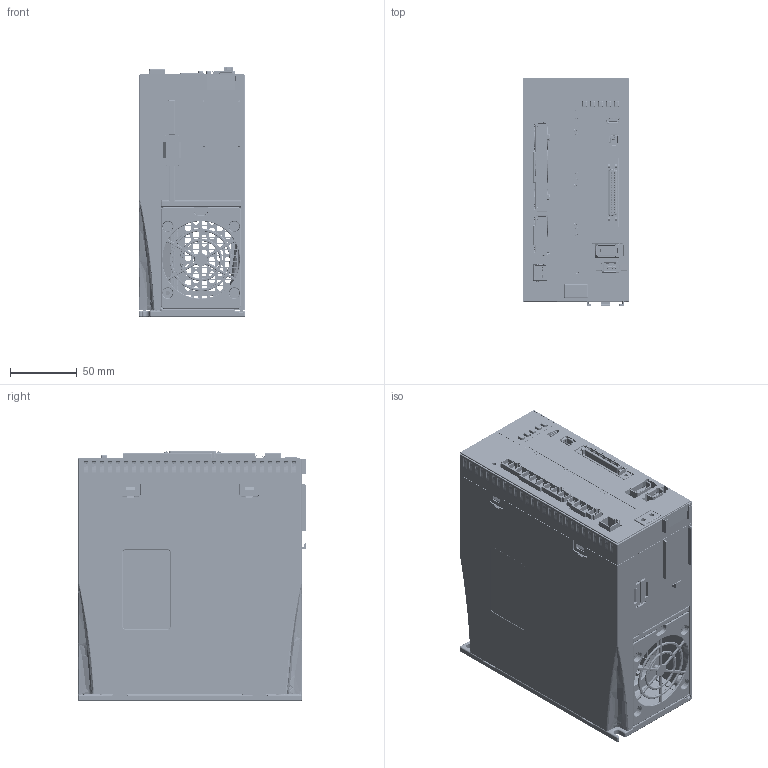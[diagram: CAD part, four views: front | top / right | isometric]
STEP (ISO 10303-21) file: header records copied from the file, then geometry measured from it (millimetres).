
FILE_DESCRIPTION((''),'2;1');
FILE_NAME('ASM0001_L8_2K_ASM_101_ASM','2022-12-14T',('Administrator'),(''),'PRO/ENGINEER BY PARAMETRIC TECHNOLOGY CORPORATION, 2010280','PRO/ENGINEER BY PARAMETRIC TECHNOLOGY CORPORATION, 2010280','');
FILE_SCHEMA(('CONFIG_CONTROL_DESIGN','SHAPE_APPEARANCE_LAYERS_GROUPS'));
Products named in the file (29): DB_L8_2000_70; PCB_L8_2K_24; 9EDGRC_7_5_09P_1000A_2_2; 9EDGRC_7_5_04P_1000A_2_2; CN-5-0-1X2-16-2X18-1_3_1; TR-27X33-1_2_2; TR-27X33-2_2_2; TR-27X33-ALL_ASM_1_ASM_2_ASM; TR-27X33-ALL_ASM_ASM_2_ASM; PCB_POWER_L8_2K_ASM_6_ASM; PCB_ALL_L8_2K_ASM_5_ASM; SRQ_L8_2K_10; GB_FAN_2_8; DRZJ_L8_2K_15; L8-400-KEY-CAP_30_1; L8-400-YKL_42_1; L_L8_2K_20220726_6; RXLB_80W_50RJ_1; F_L8RS_2K_6; R_L8RS_2K_1_11; L8RS-400-PCB3_3; USB-J-TP16-3U10_11; MINI-IO-0-635-TYPE1_4; C-5-2232303-2-A-3D_2; 1394-6P_5; SC-MCR10S90_6; RJ45-2-NL_2; L8RS-PCB-ALL_ASM_6_ASM; ASM0001_L8_2K_ASM_101_ASM
Assembly tree (29 placements, depth 6):
  ASM0001_L8_2K_ASM_101_ASM
    DB_L8_2000_70
    PCB_ALL_L8_2K_ASM_5_ASM
      PCB_POWER_L8_2K_ASM_6_ASM
        PCB_L8_2K_24
        9EDGRC_7_5_09P_1000A_2_2
        9EDGRC_7_5_04P_1000A_2_2
        CN-5-0-1X2-16-2X18-1_3_1
        TR-27X33-ALL_ASM_ASM_2_ASM
          TR-27X33-ALL_ASM_1_ASM_2_ASM
            TR-27X33-1_2_2  x2
            TR-27X33-2_2_2
    SRQ_L8_2K_10
    GB_FAN_2_8
    DRZJ_L8_2K_15
    L8-400-KEY-CAP_30_1
    L8-400-YKL_42_1
    L_L8_2K_20220726_6
    RXLB_80W_50RJ_1
    F_L8RS_2K_6
    R_L8RS_2K_1_11
    L8RS-PCB-ALL_ASM_6_ASM
      L8RS-400-PCB3_3
      USB-J-TP16-3U10_11
      MINI-IO-0-635-TYPE1_4
      C-5-2232303-2-A-3D_2
      1394-6P_5
      SC-MCR10S90_6
      RJ45-2-NL_2
Bounding box: 80 x 171.3 x 187.95 mm (x, y, z)
Volume: 798318.4 mm3; surface area: 631264.3 mm2
Topology: 23 solids, 39 shells, 12843 faces, 34314 edges, 21660 vertices
Faces by surface type: plane 7661, cylinder 3081, torus 741, bspline 728, sphere 313, cone 251, extrusion 66, revolution 2
Entity records: 537792 total; most frequent: CARTESIAN_POINT 126360, ORIENTED_EDGE 67830, DIRECTION 62616, EDGE_CURVE 33916, PRESENTATION_STYLE_ASSIGNMENT 24700, STYLED_ITEM 24167, VECTOR 23584, LINE 23518
